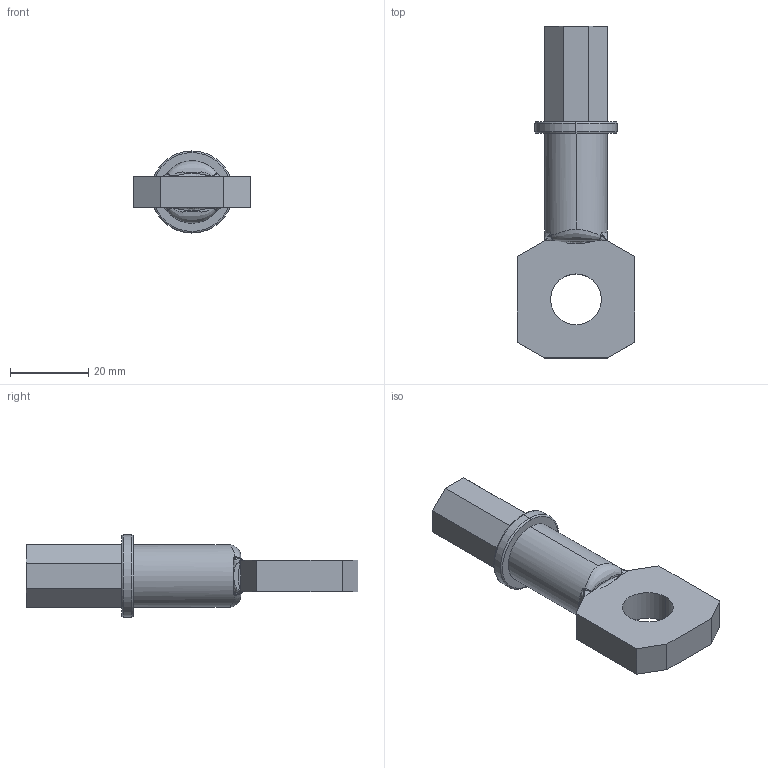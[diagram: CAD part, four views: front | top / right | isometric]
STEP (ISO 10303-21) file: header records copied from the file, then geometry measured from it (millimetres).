
FILE_DESCRIPTION (( 'STEP AP214' ), '1' );
FILE_NAME ('ﾂ鏆鮏 ﾃﾆﾈﾊ.743121.005.STEP', '2022-02-01T08:27:12', ( 'user' ), ( '' ), 'SwSTEP 2.0', 'SolidWorks 2018', '' );
FILE_SCHEMA (( 'AUTOMOTIVE_DESIGN' ));
Length unit declared in the file: millimetre
Products named in the file (1): ﾂ鏆鮏 ﾃﾆﾈﾊ.743121.005
Bounding box: 30 x 85 x 21 mm (x, y, z)
Volume: 16496.6 mm3; surface area: 6422 mm2
Topology: 1 solids, 1 shells, 74 faces, 188 edges, 101 vertices
Faces by surface type: plane 28, bspline 26, cylinder 12, torus 4, cone 4
Entity records: 4372 total; most frequent: CARTESIAN_POINT 2908, ORIENTED_EDGE 340, DIRECTION 218, EDGE_CURVE 170, VERTEX_POINT 101, EDGE_LOOP 79, FACE_OUTER_BOUND 74, ADVANCED_FACE 74
